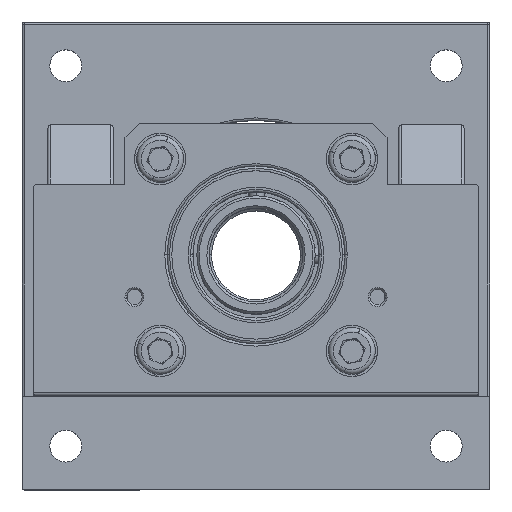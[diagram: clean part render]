
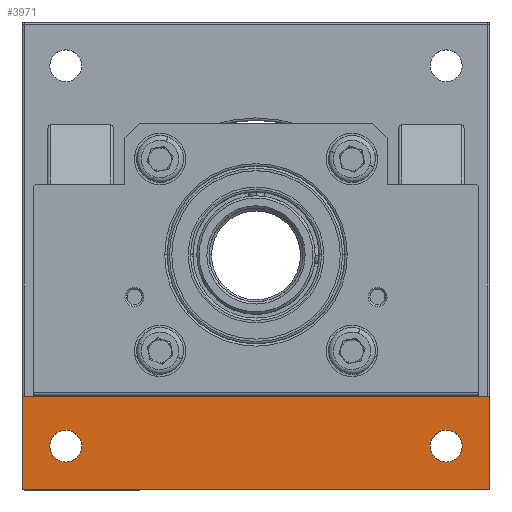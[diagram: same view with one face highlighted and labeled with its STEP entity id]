
A CAD part, top view. The second image highlights one B-rep face of the part: STEP entity #3971.
In plain terms, the highlighted planar face has unit normal (0, 0, 1).
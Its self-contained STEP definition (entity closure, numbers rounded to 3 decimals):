
#141 = AXIS2_PLACEMENT_3D ( 'NONE', #6727, #8518, #3186 ) ;
#295 = CARTESIAN_POINT ( 'NONE',  ( 50., -49.5, -115. ) ) ;
#556 = CARTESIAN_POINT ( 'NONE',  ( 50., -30., -115. ) ) ;
#746 = CARTESIAN_POINT ( 'NONE',  ( -49.5, -49.5, -115. ) ) ;
#839 = ORIENTED_EDGE ( 'NONE', *, *, #9134, .F. ) ;
#854 = VECTOR ( 'NONE', #10769, 1000. ) ;
#998 = CARTESIAN_POINT ( 'NONE',  ( 49.5, -49.5, -115. ) ) ;
#1088 = EDGE_LOOP ( 'NONE', ( #9748, #2072, #9643, #3079, #8831, #3858 ) ) ;
#1175 = CARTESIAN_POINT ( 'NONE',  ( -40.659, -40.659, -115. ) ) ;
#1245 = CIRCLE ( 'NONE', #11279, 3.4 ) ;
#1317 = DIRECTION ( 'NONE',  ( 0., 0., 1. ) ) ;
#1512 = FACE_BOUND ( 'NONE', #7366, .T. ) ;
#1604 = DIRECTION ( 'NONE',  ( 0., -1., 0. ) ) ;
#1641 = DIRECTION ( 'NONE',  ( -1., 0., 0. ) ) ;
#1900 = DIRECTION ( 'NONE',  ( -1., 0., 0. ) ) ;
#2072 = ORIENTED_EDGE ( 'NONE', *, *, #7887, .F. ) ;
#2085 = DIRECTION ( 'NONE',  ( -1., 0., 0. ) ) ;
#2672 = EDGE_CURVE ( 'NONE', #7932, #8716, #6458, .T. ) ;
#2717 = EDGE_CURVE ( 'NONE', #8716, #7932, #6182, .T. ) ;
#2727 = CARTESIAN_POINT ( 'NONE',  ( -37.259, -40.659, -115. ) ) ;
#2730 = CIRCLE ( 'NONE', #10316, 0.5 ) ;
#2743 = CARTESIAN_POINT ( 'NONE',  ( -50., -30., -115. ) ) ;
#3079 = ORIENTED_EDGE ( 'NONE', *, *, #6176, .F. ) ;
#3133 = CARTESIAN_POINT ( 'NONE',  ( -40.659, -40.659, -115. ) ) ;
#3174 = VERTEX_POINT ( 'NONE', #6888 ) ;
#3186 = DIRECTION ( 'NONE',  ( -1., 0., 0. ) ) ;
#3252 = LINE ( 'NONE', #2743, #10068 ) ;
#3264 = CARTESIAN_POINT ( 'NONE',  ( -49.5, -50., -115. ) ) ;
#3655 = CARTESIAN_POINT ( 'NONE',  ( 50., -50., -115. ) ) ;
#3768 = CARTESIAN_POINT ( 'NONE',  ( 50., -30., -115. ) ) ;
#3858 = ORIENTED_EDGE ( 'NONE', *, *, #11340, .T. ) ;
#3863 = VECTOR ( 'NONE', #1604, 1000. ) ;
#3896 = VERTEX_POINT ( 'NONE', #295 ) ;
#3971 = ADVANCED_FACE ( 'NONE', ( #11018, #1512, #8659 ), #11172, .F. ) ;
#4037 = DIRECTION ( 'NONE',  ( -1., 0., 0. ) ) ;
#4145 = LINE ( 'NONE', #5200, #3863 ) ;
#4245 = CARTESIAN_POINT ( 'NONE',  ( 37.259, -40.659, -115. ) ) ;
#4512 = EDGE_CURVE ( 'NONE', #3174, #5121, #5720, .T. ) ;
#4858 = CARTESIAN_POINT ( 'NONE',  ( 40.659, -40.659, -115. ) ) ;
#4911 = LINE ( 'NONE', #556, #9912 ) ;
#5121 = VERTEX_POINT ( 'NONE', #3264 ) ;
#5200 = CARTESIAN_POINT ( 'NONE',  ( 50., -30., -115. ) ) ;
#5720 = CIRCLE ( 'NONE', #6681, 0.5 ) ;
#5775 = DIRECTION ( 'NONE',  ( -1., 0., 0. ) ) ;
#5911 = VERTEX_POINT ( 'NONE', #2727 ) ;
#6049 = EDGE_LOOP ( 'NONE', ( #6900, #839 ) ) ;
#6176 = EDGE_CURVE ( 'NONE', #9897, #3896, #4145, .T. ) ;
#6182 = CIRCLE ( 'NONE', #9822, 3.4 ) ;
#6458 = CIRCLE ( 'NONE', #7822, 3.4 ) ;
#6681 = AXIS2_PLACEMENT_3D ( 'NONE', #746, #7023, #1641 ) ;
#6693 = CARTESIAN_POINT ( 'NONE',  ( 40.659, -40.659, -115. ) ) ;
#6727 = CARTESIAN_POINT ( 'NONE',  ( 50., -30., -115. ) ) ;
#6888 = CARTESIAN_POINT ( 'NONE',  ( -50., -49.5, -115. ) ) ;
#6900 = ORIENTED_EDGE ( 'NONE', *, *, #9040, .F. ) ;
#6930 = CARTESIAN_POINT ( 'NONE',  ( 49.5, -50., -115. ) ) ;
#6963 = VERTEX_POINT ( 'NONE', #10772 ) ;
#6988 = EDGE_CURVE ( 'NONE', #7219, #3896, #2730, .T. ) ;
#7023 = DIRECTION ( 'NONE',  ( 0., 0., 1. ) ) ;
#7219 = VERTEX_POINT ( 'NONE', #6930 ) ;
#7220 = VERTEX_POINT ( 'NONE', #7833 ) ;
#7230 = ORIENTED_EDGE ( 'NONE', *, *, #2717, .F. ) ;
#7281 = DIRECTION ( 'NONE',  ( 0., 0., 1. ) ) ;
#7366 = EDGE_LOOP ( 'NONE', ( #7230, #8183 ) ) ;
#7469 = DIRECTION ( 'NONE',  ( 0., 0., 1. ) ) ;
#7600 = DIRECTION ( 'NONE',  ( -1., 0., 0. ) ) ;
#7703 = AXIS2_PLACEMENT_3D ( 'NONE', #1175, #7469, #2085 ) ;
#7822 = AXIS2_PLACEMENT_3D ( 'NONE', #4858, #11096, #5775 ) ;
#7833 = CARTESIAN_POINT ( 'NONE',  ( -50., -30., -115. ) ) ;
#7887 = EDGE_CURVE ( 'NONE', #7219, #5121, #8280, .T. ) ;
#7932 = VERTEX_POINT ( 'NONE', #8157 ) ;
#8157 = CARTESIAN_POINT ( 'NONE',  ( 44.059, -40.659, -115. ) ) ;
#8183 = ORIENTED_EDGE ( 'NONE', *, *, #2672, .F. ) ;
#8280 = LINE ( 'NONE', #3655, #854 ) ;
#8518 = DIRECTION ( 'NONE',  ( 0., 0., -1. ) ) ;
#8591 = DIRECTION ( 'NONE',  ( -1., 0., 0. ) ) ;
#8659 = FACE_BOUND ( 'NONE', #6049, .T. ) ;
#8716 = VERTEX_POINT ( 'NONE', #4245 ) ;
#8831 = ORIENTED_EDGE ( 'NONE', *, *, #9237, .T. ) ;
#8955 = CIRCLE ( 'NONE', #7703, 3.4 ) ;
#8985 = DIRECTION ( 'NONE',  ( 0., -1., 0. ) ) ;
#9040 = EDGE_CURVE ( 'NONE', #6963, #5911, #8955, .T. ) ;
#9134 = EDGE_CURVE ( 'NONE', #5911, #6963, #1245, .T. ) ;
#9237 = EDGE_CURVE ( 'NONE', #9897, #7220, #4911, .T. ) ;
#9355 = DIRECTION ( 'NONE',  ( 0., 0., 1. ) ) ;
#9643 = ORIENTED_EDGE ( 'NONE', *, *, #6988, .T. ) ;
#9748 = ORIENTED_EDGE ( 'NONE', *, *, #4512, .T. ) ;
#9822 = AXIS2_PLACEMENT_3D ( 'NONE', #6693, #1317, #7600 ) ;
#9897 = VERTEX_POINT ( 'NONE', #3768 ) ;
#9912 = VECTOR ( 'NONE', #8591, 1000. ) ;
#10068 = VECTOR ( 'NONE', #8985, 1000. ) ;
#10316 = AXIS2_PLACEMENT_3D ( 'NONE', #998, #7281, #1900 ) ;
#10769 = DIRECTION ( 'NONE',  ( -1., 0., 0. ) ) ;
#10772 = CARTESIAN_POINT ( 'NONE',  ( -44.059, -40.659, -115. ) ) ;
#11018 = FACE_OUTER_BOUND ( 'NONE', #1088, .T. ) ;
#11096 = DIRECTION ( 'NONE',  ( 0., 0., 1. ) ) ;
#11172 = PLANE ( 'NONE',  #141 ) ;
#11279 = AXIS2_PLACEMENT_3D ( 'NONE', #3133, #9355, #4037 ) ;
#11340 = EDGE_CURVE ( 'NONE', #7220, #3174, #3252, .T. ) ;
